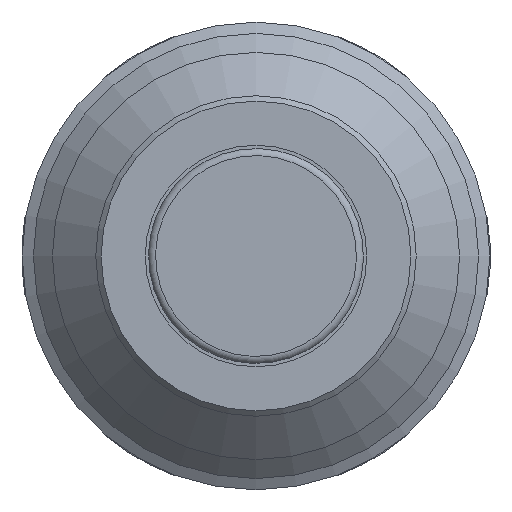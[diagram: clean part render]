
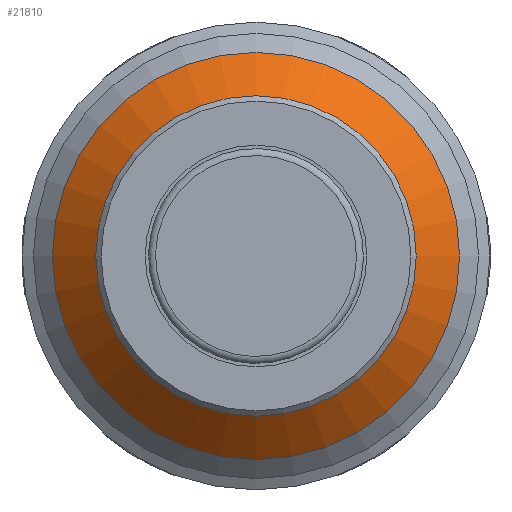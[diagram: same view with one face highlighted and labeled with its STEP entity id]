
A CAD part, front view. The second image highlights one B-rep face of the part: STEP entity #21810.
In plain terms, the highlighted conical face has half-angle 46.45 degrees and reference radius 17 mm.
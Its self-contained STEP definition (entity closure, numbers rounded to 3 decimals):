
#2294=CONICAL_SURFACE('',#23039,17.,0.811);
#3913=FACE_OUTER_BOUND('',#5100,.T.);
#5100=EDGE_LOOP('',(#15092,#15093,#15094,#15095));
#6347=LINE('',#27197,#7704);
#7704=VECTOR('',#23999,17.);
#9071=CIRCLE('',#23038,19.025);
#9072=CIRCLE('',#23040,14.975);
#9515=VERTEX_POINT('',#27192);
#9516=VERTEX_POINT('',#27196);
#11742=EDGE_CURVE('',#9515,#9515,#9071,.T.);
#11743=EDGE_CURVE('',#9515,#9516,#6347,.T.);
#11744=EDGE_CURVE('',#9516,#9516,#9072,.T.);
#15092=ORIENTED_EDGE('',*,*,#11742,.F.);
#15093=ORIENTED_EDGE('',*,*,#11743,.T.);
#15094=ORIENTED_EDGE('',*,*,#11744,.T.);
#15095=ORIENTED_EDGE('',*,*,#11743,.F.);
#21810=ADVANCED_FACE('',(#3913),#2294,.T.);
#23038=AXIS2_PLACEMENT_3D('',#27194,#23995,#23996);
#23039=AXIS2_PLACEMENT_3D('',#27195,#23997,#23998);
#23040=AXIS2_PLACEMENT_3D('',#27198,#24000,#24001);
#23995=DIRECTION('center_axis',(0.,1.,0.));
#23996=DIRECTION('ref_axis',(1.,0.,0.));
#23997=DIRECTION('center_axis',(0.,1.,0.));
#23998=DIRECTION('ref_axis',(-1.,0.,0.));
#23999=DIRECTION('',(-0.725,-0.689,0.));
#24000=DIRECTION('center_axis',(0.,1.,0.));
#24001=DIRECTION('ref_axis',(1.,0.,0.));
#27192=CARTESIAN_POINT('',(19.025,-8.15,0.));
#27194=CARTESIAN_POINT('Origin',(0.,-8.15,0.));
#27195=CARTESIAN_POINT('Origin',(0.,-10.075,0.));
#27196=CARTESIAN_POINT('',(14.975,-12.,0.));
#27197=CARTESIAN_POINT('',(17.,-10.075,0.));
#27198=CARTESIAN_POINT('Origin',(0.,-12.,0.));
